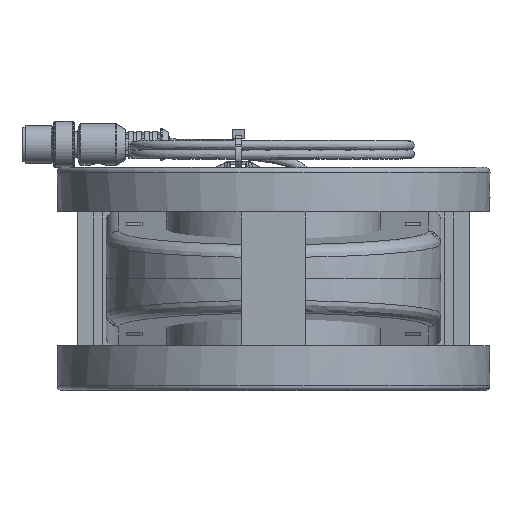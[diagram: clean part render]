
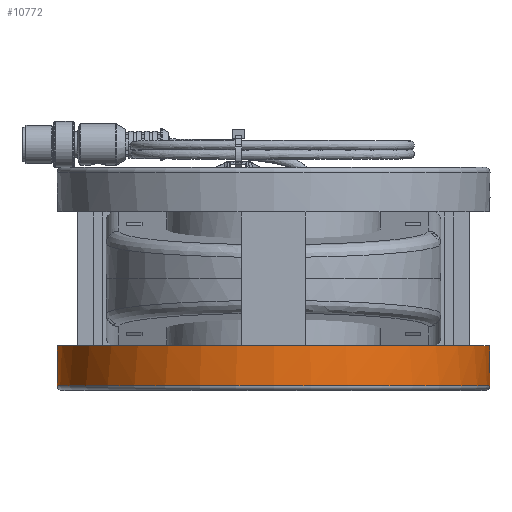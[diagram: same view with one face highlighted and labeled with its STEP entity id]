
A CAD part, front view. The second image highlights one B-rep face of the part: STEP entity #10772.
In plain terms, the highlighted cylindrical face has radius 67.9 mm (diameter 135.8 mm), a full revolution.
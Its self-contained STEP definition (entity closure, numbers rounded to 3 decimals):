
#4697=CYLINDRICAL_SURFACE('',#33068,67.9);
#5103=CIRCLE('',#33056,67.9);
#5110=CIRCLE('',#33066,67.9);
#5819=ELLIPSE('',#33067,68.159,67.9);
#10206=FACE_BOUND('',#14859,.T.);
#10207=FACE_BOUND('',#14860,.T.);
#10772=ADVANCED_FACE('',(#10206,#10207),#4697,.T.);
#14859=EDGE_LOOP('',(#17409));
#14860=EDGE_LOOP('',(#17410,#17411));
#17409=ORIENTED_EDGE('',*,*,#27919,.T.);
#17410=ORIENTED_EDGE('',*,*,#27907,.F.);
#17411=ORIENTED_EDGE('',*,*,#27920,.T.);
#25070=VERTEX_POINT('',#43573);
#25071=VERTEX_POINT('',#43574);
#25083=VERTEX_POINT('',#43662);
#27907=EDGE_CURVE('',#25070,#25071,#5103,.T.);
#27919=EDGE_CURVE('',#25083,#25083,#5110,.T.);
#27920=EDGE_CURVE('',#25070,#25071,#5819,.T.);
#33056=AXIS2_PLACEMENT_3D('',#43575,#35859,#35860);
#33066=AXIS2_PLACEMENT_3D('',#43661,#35879,#35880);
#33067=AXIS2_PLACEMENT_3D('',#43663,#35881,#35882);
#33068=AXIS2_PLACEMENT_3D('',#43664,#35883,#35884);
#35859=DIRECTION('',(1.,0.,0.));
#35860=DIRECTION('',(0.,1.,0.));
#35879=DIRECTION('',(1.,0.,0.));
#35880=DIRECTION('',(0.,1.,0.));
#35881=DIRECTION('',(-0.996,-0.087,0.));
#35882=DIRECTION('',(0.087,-0.996,0.));
#35883=DIRECTION('',(1.,0.,0.));
#35884=DIRECTION('',(0.,1.,0.));
#43573=CARTESIAN_POINT('',(14.,61.784,28.163));
#43574=CARTESIAN_POINT('',(14.,61.784,-28.163));
#43575=CARTESIAN_POINT('',(14.,0.,0.));
#43661=CARTESIAN_POINT('',(1.5,0.,0.));
#43662=CARTESIAN_POINT('',(1.5,67.9,0.));
#43663=CARTESIAN_POINT('',(19.405,0.,0.));
#43664=CARTESIAN_POINT('',(21.4,0.,0.));
